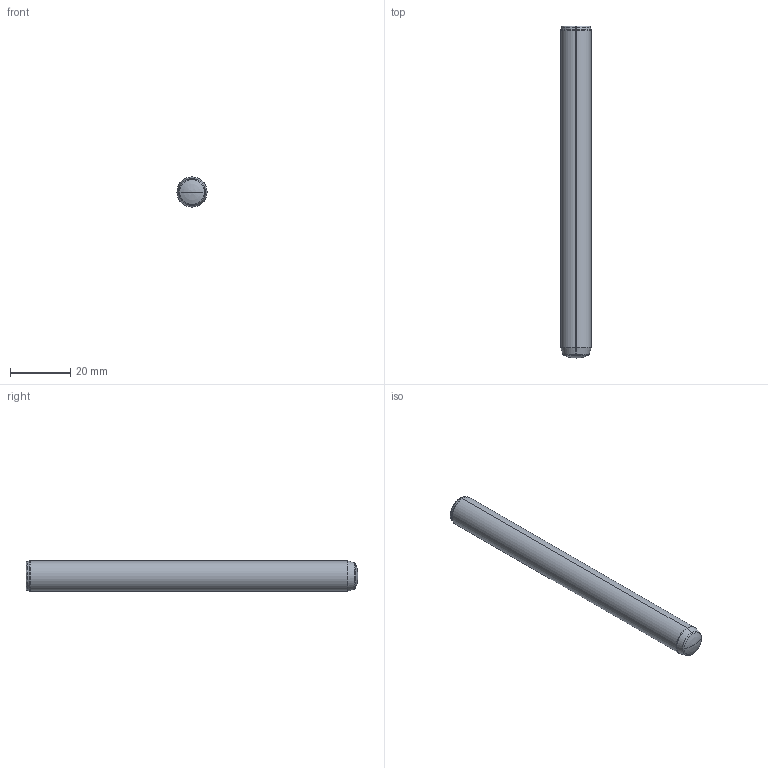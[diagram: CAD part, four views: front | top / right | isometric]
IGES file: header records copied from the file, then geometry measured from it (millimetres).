
Start section: SolidWorks IGES file using analytic representation for surfaces
Global section: file name: D:\Cleonir_arquivos\MT_15_07\Pinos Guia DIN 7979 ISO 8735 com rosca\PG710110.igs; native system: SolidWorks 2013; preprocessor: SolidWorks 2013; author: Cleonir; date: 130730.171254; units: millimetre
Bounding box: 10 x 110 x 10 mm (x, y, z)
Surface area: 3813.3 mm2 (no closed solid volume)
Topology: 0 solids, 0 shells, 271 faces, 1947 edges, 1944 vertices
Faces by surface type: bspline 249, revolution 22
